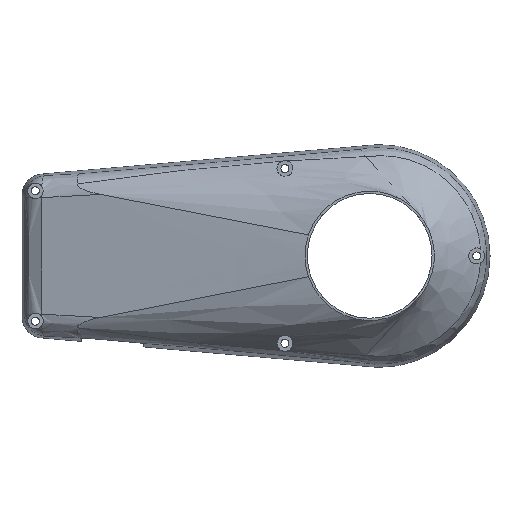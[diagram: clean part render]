
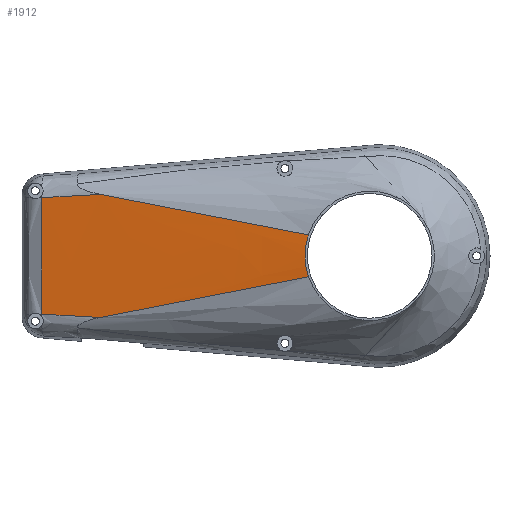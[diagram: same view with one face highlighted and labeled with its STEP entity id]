
A CAD part, top view. The second image highlights one B-rep face of the part: STEP entity #1912.
In plain terms, the highlighted free-form (B-spline) face has degree [3, 3] with [4, 4] control points.
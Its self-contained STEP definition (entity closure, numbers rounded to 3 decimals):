
#73=B_SPLINE_SURFACE_WITH_KNOTS('',3,3,((#4590,#4591,#4592,#4593),(#4594,
#4595,#4596,#4597),(#4598,#4599,#4600,#4601),(#4602,#4603,#4604,#4605)),
 .UNSPECIFIED.,.F.,.F.,.F.,(4,4),(4,4),(0.,1.),(0.,0.946),
 .UNSPECIFIED.);
#150=B_SPLINE_CURVE_WITH_KNOTS('',3,(#3927,#3928,#3929,#3930),
 .UNSPECIFIED.,.F.,.F.,(4,4),(-1.684,-0.345),
 .UNSPECIFIED.);
#151=B_SPLINE_CURVE_WITH_KNOTS('',3,(#3960,#3961,#3962,#3963),
 .UNSPECIFIED.,.F.,.F.,(4,4),(-1.339,0.),
 .UNSPECIFIED.);
#156=B_SPLINE_CURVE_WITH_KNOTS('',3,(#4047,#4048,#4049,#4050),
 .UNSPECIFIED.,.F.,.F.,(4,4),(0.33,2.943),
 .UNSPECIFIED.);
#263=CIRCLE('',#2075,14.5);
#365=FACE_OUTER_BOUND('',#476,.T.);
#476=EDGE_LOOP('',(#1654,#1655,#1656,#1657,#1658,#1659));
#560=LINE('',#3417,#668);
#563=LINE('',#3472,#671);
#668=VECTOR('',#2275,65.523);
#671=VECTOR('',#2282,65.523);
#815=VERTEX_POINT('',#3403);
#816=VERTEX_POINT('',#3416);
#821=VERTEX_POINT('',#3469);
#822=VERTEX_POINT('',#3471);
#850=VERTEX_POINT('',#3926);
#852=VERTEX_POINT('',#3958);
#1035=EDGE_CURVE('',#816,#815,#560,.T.);
#1044=EDGE_CURVE('',#821,#822,#563,.T.);
#1077=EDGE_CURVE('',#822,#850,#150,.T.);
#1083=EDGE_CURVE('',#852,#815,#151,.T.);
#1094=EDGE_CURVE('',#850,#852,#156,.T.);
#1173=EDGE_CURVE('',#821,#816,#263,.T.);
#1654=ORIENTED_EDGE('',*,*,#1077,.F.);
#1655=ORIENTED_EDGE('',*,*,#1044,.F.);
#1656=ORIENTED_EDGE('',*,*,#1173,.T.);
#1657=ORIENTED_EDGE('',*,*,#1035,.T.);
#1658=ORIENTED_EDGE('',*,*,#1083,.F.);
#1659=ORIENTED_EDGE('',*,*,#1094,.F.);
#1912=ADVANCED_FACE('',(#365),#73,.T.);
#2075=AXIS2_PLACEMENT_3D('',#4606,#2455,#2456);
#2275=DIRECTION('',(-0.965,0.188,-0.183));
#2282=DIRECTION('',(-0.965,-0.188,-0.183));
#2455=DIRECTION('center_axis',(0.,0.,-1.));
#2456=DIRECTION('ref_axis',(-1.,0.,0.));
#3403=CARTESIAN_POINT('',(-64.908,13.804,9.138));
#3416=CARTESIAN_POINT('',(-18.22,4.69,18.));
#3417=CARTESIAN_POINT('',(-18.22,4.69,18.));
#3469=CARTESIAN_POINT('',(-18.22,-4.69,18.));
#3471=CARTESIAN_POINT('',(-64.908,-13.804,9.138));
#3472=CARTESIAN_POINT('',(-18.22,-4.69,18.));
#3926=CARTESIAN_POINT('',(-78.053,-13.072,6.646));
#3927=CARTESIAN_POINT('Ctrl Pts',(-64.908,-13.804,9.138));
#3928=CARTESIAN_POINT('Ctrl Pts',(-69.292,-13.556,8.312));
#3929=CARTESIAN_POINT('Ctrl Pts',(-73.673,-13.313,7.481));
#3930=CARTESIAN_POINT('Ctrl Pts',(-78.053,-13.072,6.646));
#3958=CARTESIAN_POINT('',(-78.053,13.072,6.646));
#3960=CARTESIAN_POINT('Ctrl Pts',(-78.053,13.072,6.646));
#3961=CARTESIAN_POINT('Ctrl Pts',(-73.673,13.313,7.481));
#3962=CARTESIAN_POINT('Ctrl Pts',(-69.292,13.556,8.312));
#3963=CARTESIAN_POINT('Ctrl Pts',(-64.908,13.804,9.138));
#4047=CARTESIAN_POINT('Ctrl Pts',(-78.053,-13.072,6.646));
#4048=CARTESIAN_POINT('Ctrl Pts',(-78.062,-4.358,6.651));
#4049=CARTESIAN_POINT('Ctrl Pts',(-78.062,4.358,6.651));
#4050=CARTESIAN_POINT('Ctrl Pts',(-78.053,13.072,6.646));
#4590=CARTESIAN_POINT('Ctrl Pts',(-18.22,-4.69,18.));
#4591=CARTESIAN_POINT('Ctrl Pts',(-38.16,-8.583,14.215));
#4592=CARTESIAN_POINT('Ctrl Pts',(-58.099,-12.475,10.431));
#4593=CARTESIAN_POINT('Ctrl Pts',(-78.038,-16.367,6.646));
#4594=CARTESIAN_POINT('Ctrl Pts',(-19.25,-1.677,18.));
#4595=CARTESIAN_POINT('Ctrl Pts',(-38.862,-2.939,14.215));
#4596=CARTESIAN_POINT('Ctrl Pts',(-58.482,-4.2,10.431));
#4597=CARTESIAN_POINT('Ctrl Pts',(-78.093,-5.462,6.646));
#4598=CARTESIAN_POINT('Ctrl Pts',(-19.25,1.677,18.));
#4599=CARTESIAN_POINT('Ctrl Pts',(-38.862,2.939,14.215));
#4600=CARTESIAN_POINT('Ctrl Pts',(-58.482,4.2,10.431));
#4601=CARTESIAN_POINT('Ctrl Pts',(-78.093,5.462,6.646));
#4602=CARTESIAN_POINT('Ctrl Pts',(-18.22,4.69,18.));
#4603=CARTESIAN_POINT('Ctrl Pts',(-38.16,8.583,14.215));
#4604=CARTESIAN_POINT('Ctrl Pts',(-58.099,12.475,10.431));
#4605=CARTESIAN_POINT('Ctrl Pts',(-78.038,16.367,6.646));
#4606=CARTESIAN_POINT('Origin',(-4.5,0.,18.));
